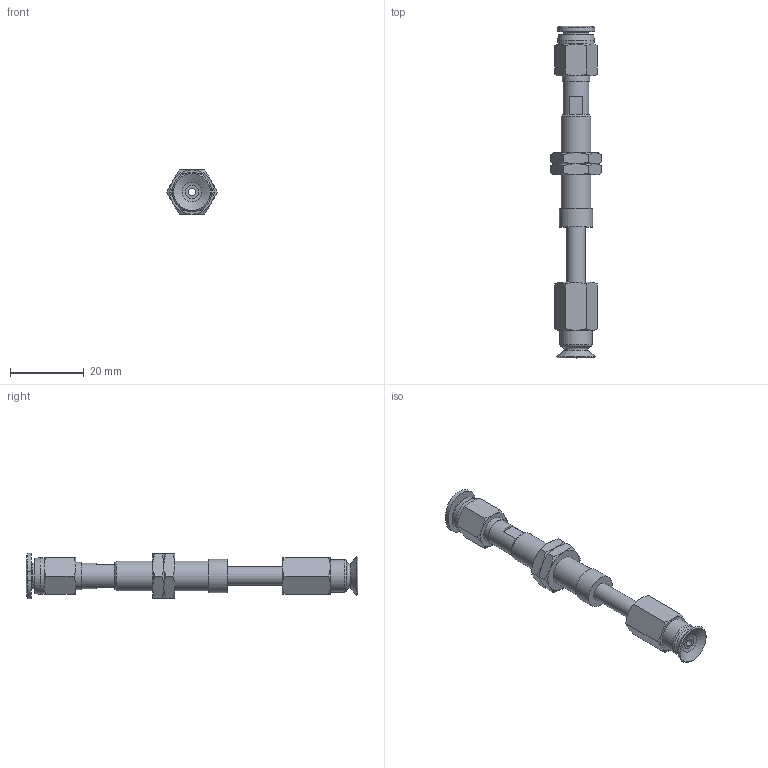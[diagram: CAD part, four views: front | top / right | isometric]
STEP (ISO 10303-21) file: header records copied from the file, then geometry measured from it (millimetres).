
FILE_DESCRIPTION(('STEP AP203'),'1');
FILE_NAME('-O.stp','2025-08-27T05:48:14',(' '),(' '),'Spatial InterOp 3D',' ',' ');
FILE_SCHEMA(('CONFIG_CONTROL_DESIGN'));
Length unit declared in the file: millimetre
Products named in the file (7): BNABPFTS-10A-15-※-O; ADAPTER; NAPATS-10A-15--M; Nut-10A-15-s; NAPFTS-10A-15-FBODY; BPFG-10A-※; PC-C_06-M5
Assembly tree (7 placements, depth 2):
  BNABPFTS-10A-15-※-O
    ADAPTER
    NAPATS-10A-15--M
    Nut-10A-15-s  x2
    NAPFTS-10A-15-FBODY
    BPFG-10A-※
    PC-C_06-M5
Bounding box: 13.86 x 89.98 x 12.4 mm (x, y, z)
Volume: 3928.5 mm3; surface area: 5757.3 mm2
Topology: 6 solids, 9 shells, 164 faces, 336 edges, 203 vertices
Faces by surface type: cone 62, plane 59, cylinder 25, torus 10, bspline 5, revolution 3
Full cylindrical faces by diameter (mm): 2 x3, 4 x4, 4.134 x1, 5 x3, 6 x2, 7 x2, 7.188 x2, 7.4 x1, 8 x1, 8.2 x1, 8.7 x1, 9 x1, 10 x1
Entity records: 4179 total; most frequent: CARTESIAN_POINT 1209, DIRECTION 549, ORIENTED_EDGE 458, AXIS2_PLACEMENT_3D 253, EDGE_CURVE 231, EDGE_LOOP 214, VERTEX_POINT 165, FACE_OUTER_BOUND 114
